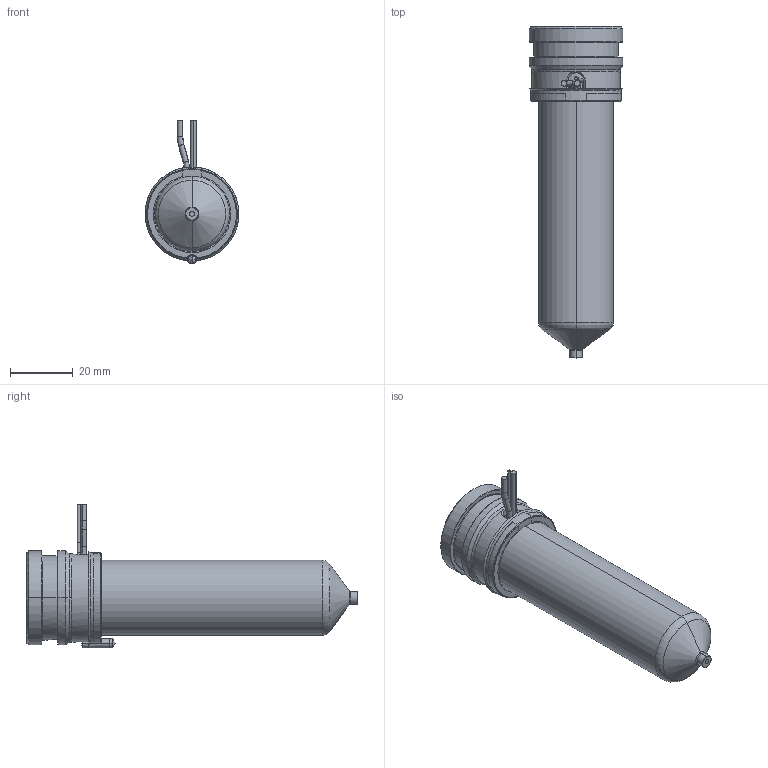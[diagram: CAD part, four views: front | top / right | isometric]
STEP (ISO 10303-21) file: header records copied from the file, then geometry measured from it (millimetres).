
FILE_DESCRIPTION((''),'2;1');
FILE_NAME('MPN-10-29-VP4-086-A','2026-02-05T12:42:29',('UPTIO'),('Thermoplay S.p.A.'),'CREO PARAMETRIC BY PTC INC, 2023494','CREO PARAMETRIC BY PTC INC, 2023494','');
FILE_SCHEMA(('CONFIG_CONTROL_DESIGN','SHAPE_APPEARANCE_LAYERS_GROUPS'));
Length unit declared in the file: millimetre
Products named in the file (1): MPN-10-29-VP4-086-A
Bounding box: 30 x 106.1 x 46 mm (x, y, z)
Volume: 33967.9 mm3; surface area: 33939.9 mm2
Topology: 2 solids, 3 shells, 583 faces, 1550 edges, 965 vertices
Faces by surface type: cylinder 180, plane 156, bspline 98, torus 70, cone 68, sphere 7, extrusion 4
Entity records: 30810 total; most frequent: CARTESIAN_POINT 13843, ORIENTED_EDGE 3088, DIRECTION 2697, EDGE_CURVE 1544, AXIS2_PLACEMENT_3D 1066, VERTEX_POINT 965, EDGE_LOOP 611, CIRCLE 584
